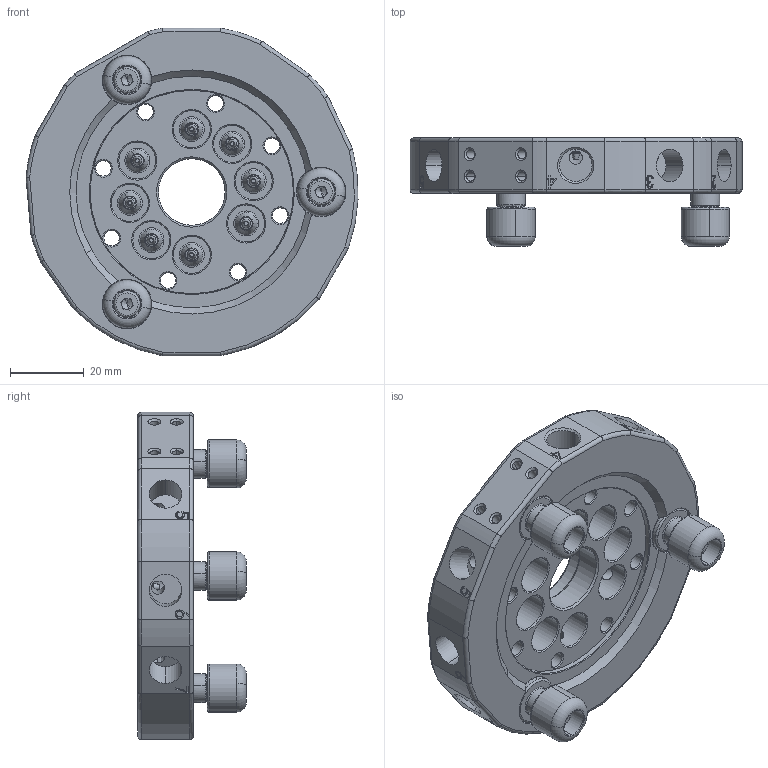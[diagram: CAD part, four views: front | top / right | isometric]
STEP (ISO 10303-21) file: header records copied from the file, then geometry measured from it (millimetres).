
FILE_DESCRIPTION (( 'STEP AP203' ), '1' );
FILE_NAME ('QC-G90.STEP', '2024-10-10T08:45:24', ( '微软用户' ), ( '微软中国' ), 'SwSTEP 2.0', 'SolidWorks 2018', '' );
FILE_SCHEMA (( 'CONFIG_CONTROL_DESIGN' ));
Length unit declared in the file: millimetre
Products named in the file (1): QC-G90
Bounding box: 89.78 x 29.3 x 88.6 mm (x, y, z)
Volume: 72898.3 mm3; surface area: 30409.6 mm2
Topology: 7 solids, 7 shells, 1483 faces, 3209 edges, 1804 vertices
Faces by surface type: cone 659, cylinder 439, plane 179, torus 138, bspline 68
Entity records: 43465 total; most frequent: CARTESIAN_POINT 10968, DIRECTION 7316, ORIENTED_EDGE 6402, EDGE_CURVE 3201, AXIS2_PLACEMENT_3D 2972, VERTEX_POINT 1804, EDGE_LOOP 1595, CIRCLE 1556
